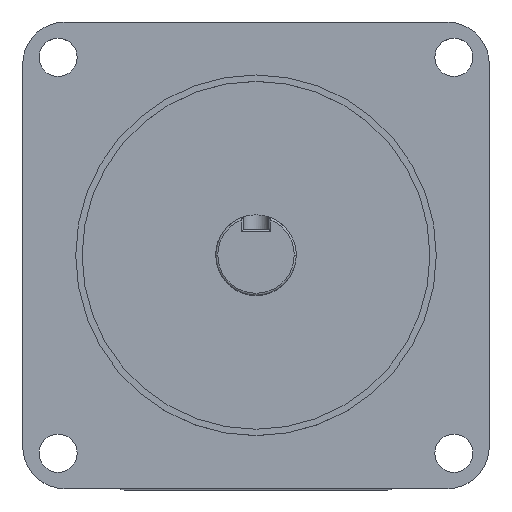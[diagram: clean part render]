
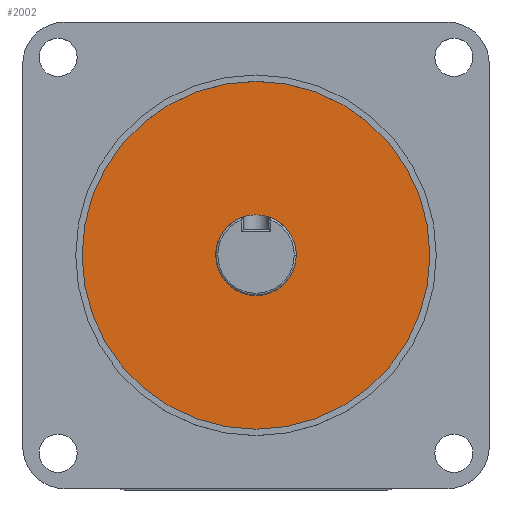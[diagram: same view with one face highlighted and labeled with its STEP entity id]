
A CAD part, top view. The second image highlights one B-rep face of the part: STEP entity #2002.
In plain terms, the highlighted planar face has unit normal (0, 0, 1).
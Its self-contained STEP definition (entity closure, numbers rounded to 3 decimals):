
#19 = CARTESIAN_POINT ( 'NONE',  ( 0., 0., 0. ) ) ;
#54 = CARTESIAN_POINT ( 'NONE',  ( 41., 0., 0. ) ) ;
#153 = ORIENTED_EDGE ( 'NONE', *, *, #2652, .T. ) ;
#176 = CIRCLE ( 'NONE', #633, 9.5 ) ;
#220 = DIRECTION ( 'NONE',  ( -1., 0., 0. ) ) ;
#356 = DIRECTION ( 'NONE',  ( 0., 0., 1. ) ) ;
#373 = VERTEX_POINT ( 'NONE', #54 ) ;
#385 = PLANE ( 'NONE',  #590 ) ;
#390 = DIRECTION ( 'NONE',  ( 0., 0., -1. ) ) ;
#450 = VERTEX_POINT ( 'NONE', #1834 ) ;
#527 = FACE_BOUND ( 'NONE', #1284, .T. ) ;
#590 = AXIS2_PLACEMENT_3D ( 'NONE', #1812, #390, #1828 ) ;
#633 = AXIS2_PLACEMENT_3D ( 'NONE', #662, #2108, #877 ) ;
#662 = CARTESIAN_POINT ( 'NONE',  ( 0., 0., 0. ) ) ;
#716 = CARTESIAN_POINT ( 'NONE',  ( 0., 0., 0. ) ) ;
#877 = DIRECTION ( 'NONE',  ( -1., 0., 0. ) ) ;
#932 = DIRECTION ( 'NONE',  ( 1., 0., 0. ) ) ;
#1005 = EDGE_CURVE ( 'NONE', #2055, #373, #2149, .T. ) ;
#1284 = EDGE_LOOP ( 'NONE', ( #2268, #2096 ) ) ;
#1439 = DIRECTION ( 'NONE',  ( 0., 0., 1. ) ) ;
#1495 = ORIENTED_EDGE ( 'NONE', *, *, #1005, .T. ) ;
#1497 = CARTESIAN_POINT ( 'NONE',  ( 9.5, 0., 0. ) ) ;
#1575 = CARTESIAN_POINT ( 'NONE',  ( 0., 0., 0. ) ) ;
#1712 = VERTEX_POINT ( 'NONE', #1497 ) ;
#1792 = DIRECTION ( 'NONE',  ( 1., 0., 0. ) ) ;
#1793 = AXIS2_PLACEMENT_3D ( 'NONE', #1575, #356, #1792 ) ;
#1812 = CARTESIAN_POINT ( 'NONE',  ( -45., -45., 0. ) ) ;
#1828 = DIRECTION ( 'NONE',  ( -1., 0., 0. ) ) ;
#1833 = CARTESIAN_POINT ( 'NONE',  ( -41., 0., 0. ) ) ;
#1834 = CARTESIAN_POINT ( 'NONE',  ( -9.5, 0., 0. ) ) ;
#1844 = CIRCLE ( 'NONE', #2158, 41. ) ;
#2002 = ADVANCED_FACE ( 'NONE', ( #2253, #527 ), #385, .F. ) ;
#2055 = VERTEX_POINT ( 'NONE', #1833 ) ;
#2068 = AXIS2_PLACEMENT_3D ( 'NONE', #19, #1439, #220 ) ;
#2096 = ORIENTED_EDGE ( 'NONE', *, *, #2510, .F. ) ;
#2108 = DIRECTION ( 'NONE',  ( 0., 0., 1. ) ) ;
#2149 = CIRCLE ( 'NONE', #1793, 41. ) ;
#2158 = AXIS2_PLACEMENT_3D ( 'NONE', #716, #2170, #932 ) ;
#2170 = DIRECTION ( 'NONE',  ( 0., 0., 1. ) ) ;
#2253 = FACE_OUTER_BOUND ( 'NONE', #2328, .T. ) ;
#2268 = ORIENTED_EDGE ( 'NONE', *, *, #2399, .F. ) ;
#2328 = EDGE_LOOP ( 'NONE', ( #1495, #153 ) ) ;
#2399 = EDGE_CURVE ( 'NONE', #450, #1712, #2504, .T. ) ;
#2504 = CIRCLE ( 'NONE', #2068, 9.5 ) ;
#2510 = EDGE_CURVE ( 'NONE', #1712, #450, #176, .T. ) ;
#2652 = EDGE_CURVE ( 'NONE', #373, #2055, #1844, .T. ) ;
